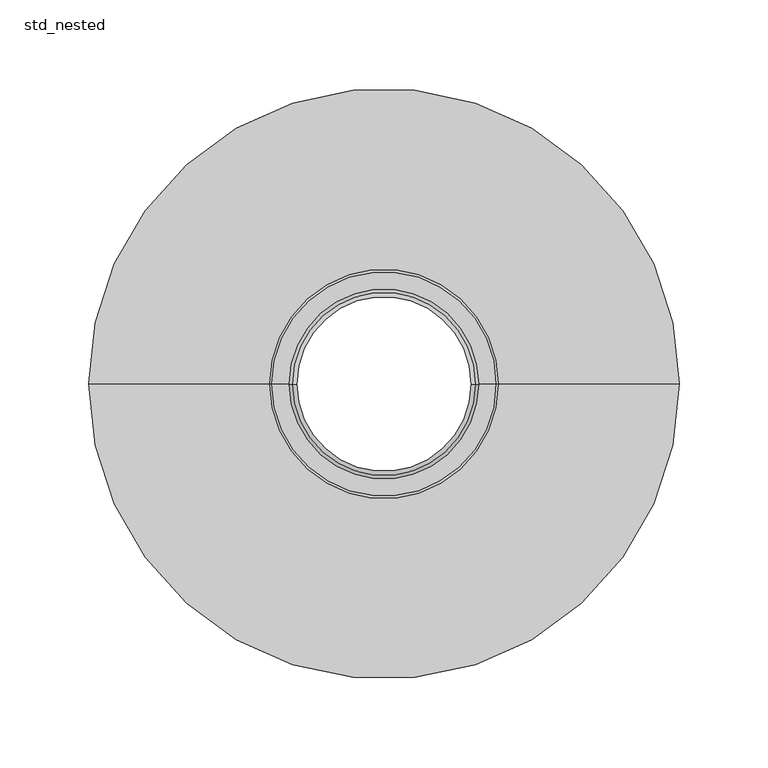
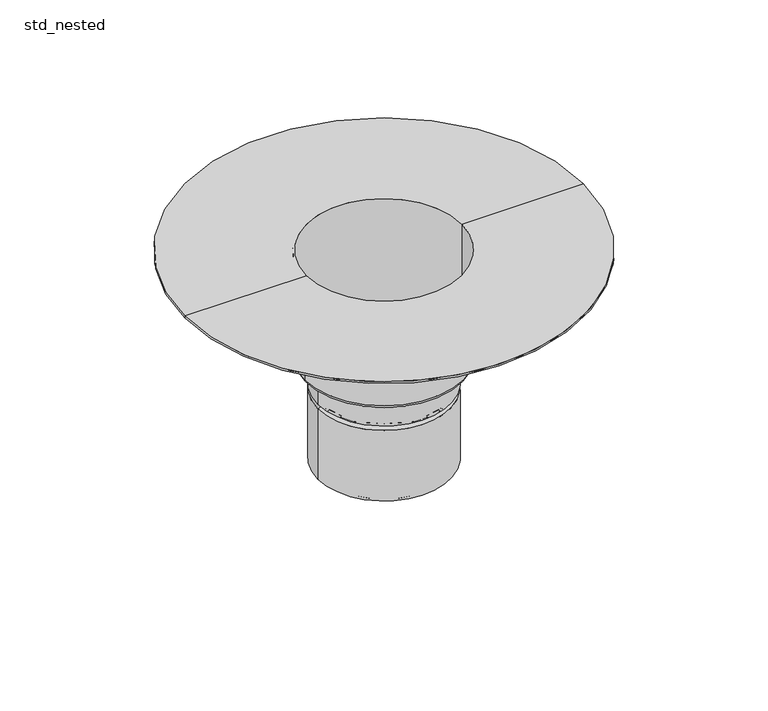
"""IFC4 building model written with IfcOpenShell, lengths in millimetres: sanitary terminal geometry, ZZZ_do not use_PF_ST_UN_Sealing recovery plate_ACO : std_nested."""

from ifc_helpers import new_model, si_unit, point, frame, origin, place, context, project, spatial, polyline, circle_curve, ellipse_curve, trimmed, source, transform, mapped, element, save
from ifc_brep_helpers import plane_surface, cylinder_surface, revolved_surface, advanced_brep


def std_nested_b038d29c(model_context):
    return source(origin(), model_context, "Body", "AdvancedBrep", [
        advanced_brep(
        [(166.0, 0.0, -1.5), (-166.0, 0.0, -1.5), (-166.0, 0.0, 0.0), (166.0, 0.0, 0.0), (-64.5, 0.0, 0.0), (64.5, 0.0, 0.0), (-64.5, 0.0, -91.0), (64.5, 0.0, -91.0), (63.0, 0.0, -92.5), (-63.0, 0.0, -92.5), (-53.5, 0.0, -92.5), (53.5, 0.0, -92.5), (-53.5, 0.0, -115.3377223), (53.5, 0.0, -115.3377223), (-53.5, 0.0, -121.6622777), (53.5, 0.0, -121.6622777), (-53.5, 0.0, -181.7181117), (53.5, 0.0, -181.7181117), (-49.1396353, 0.0, -184.7712719), (49.1396353, 0.0, -184.7712719), (-50.2166579, 0.0, -185.8482945), (50.2166579, 0.0, -185.8482945), (-55.0, 0.0, -182.4989623), (55.0, 0.0, -182.4989623), (-55.0, 0.0, -120.5), (55.0, 0.0, -120.5), (-55.0, 0.0, -116.5), (55.0, 0.0, -116.5), (-55.0, 0.0, -94.0), (55.0, 0.0, -94.0), (-63.0, 0.0, -94.0), (63.0, 0.0, -94.0), (66.0, 0.0, -91.0), (-66.0, 0.0, -91.0), (-66.0, 0.0, -1.5), (66.0, 0.0, -1.5)],
        [
            (0, 1, circle_curve(frame((0.0, 0.0, -1.5), z_axis=(0.0, 0.0, 1.0), x_axis=(-1.0, 0.0, 0.0)), 166.0)),
            (1, 2),
            (2, 3, circle_curve(frame((0.0, 0.0, 0.0), z_axis=(0.0, 0.0, -1.0), x_axis=(-1.0, 0.0, 0.0)), 166.0)),
            (3, 0),
            (1, 0, circle_curve(frame((0.0, 0.0, -1.5), z_axis=(0.0, 0.0, 1.0), x_axis=(-1.0, 0.0, 0.0)), 166.0)),
            (3, 2, circle_curve(frame((0.0, 0.0, 0.0), z_axis=(0.0, 0.0, -1.0), x_axis=(-1.0, 0.0, 0.0)), 166.0)),
            (2, 4),
            (4, 5, circle_curve(frame((0.0, 0.0, 0.0), z_axis=(0.0, 0.0, -1.0), x_axis=(-1.0, 0.0, 0.0)), 64.5)),
            (5, 3),
            (5, 4, circle_curve(frame((0.0, 0.0, 0.0), z_axis=(0.0, 0.0, -1.0), x_axis=(-1.0, 0.0, 0.0)), 64.5)),
            (4, 6),
            (6, 7, circle_curve(frame((0.0, 0.0, -91.0), z_axis=(0.0, 0.0, -1.0), x_axis=(-1.0, 0.0, 0.0)), 64.5)),
            (7, 5),
            (7, 6, circle_curve(frame((0.0, 0.0, -91.0), z_axis=(0.0, 0.0, -1.0), x_axis=(-1.0, 0.0, 0.0)), 64.5)),
            (8, 9, circle_curve(frame((0.0, 0.0, -92.5), z_axis=(0.0, 0.0, 1.0), x_axis=(-1.0, 0.0, 0.0)), 63.0)),
            (9, 10),
            (10, 11, circle_curve(frame((0.0, 0.0, -92.5), z_axis=(0.0, 0.0, -1.0), x_axis=(-1.0, 0.0, 0.0)), 53.5)),
            (11, 8),
            (9, 8, circle_curve(frame((0.0, 0.0, -92.5), z_axis=(0.0, 0.0, 1.0), x_axis=(-1.0, 0.0, 0.0)), 63.0)),
            (11, 10, circle_curve(frame((0.0, 0.0, -92.5), z_axis=(0.0, 0.0, -1.0), x_axis=(-1.0, 0.0, 0.0)), 53.5)),
            (10, 12),
            (12, 13, circle_curve(frame((0.0, 0.0, -115.3377223), z_axis=(0.0, 0.0, -1.0), x_axis=(-1.0, 0.0, 0.0)), 53.5)),
            (13, 11),
            (13, 12, circle_curve(frame((0.0, 0.0, -115.3377223), z_axis=(0.0, 0.0, -1.0), x_axis=(-1.0, 0.0, 0.0)), 53.5)),
            (12, 14, circle_curve(frame((-55.0, 0.0, -118.5), z_axis=(0.0, 1.0, 0.0), x_axis=(1.0, 0.0, 0.0)), 3.5)),
            (14, 15, circle_curve(frame((0.0, 0.0, -121.6622777), z_axis=(0.0, 0.0, -1.0), x_axis=(-1.0, 0.0, 0.0)), 53.5)),
            (15, 13, circle_curve(frame((55.0, 0.0, -118.5), z_axis=(0.0, 1.0, 0.0), x_axis=(-1.0, 0.0, 0.0)), 3.5)),
            (15, 14, circle_curve(frame((0.0, 0.0, -121.6622777), z_axis=(0.0, 0.0, -1.0), x_axis=(-1.0, 0.0, 0.0)), 53.5)),
            (14, 16),
            (16, 17, circle_curve(frame((0.0, 0.0, -181.7181117), z_axis=(0.0, 0.0, -1.0), x_axis=(-1.0, 0.0, 0.0)), 53.5)),
            (17, 15),
            (17, 16, circle_curve(frame((0.0, 0.0, -181.7181117), z_axis=(0.0, 0.0, -1.0), x_axis=(-1.0, 0.0, 0.0)), 53.5)),
            (16, 18),
            (18, 19, circle_curve(frame((0.0, 0.0, -184.7712719), z_axis=(0.0, 0.0, -1.0), x_axis=(-1.0, 0.0, 0.0)), 49.1396353)),
            (19, 17),
            (19, 18, circle_curve(frame((0.0, 0.0, -184.7712719), z_axis=(0.0, 0.0, -1.0), x_axis=(-1.0, 0.0, 0.0)), 49.1396353)),
            (18, 20),
            (20, 21, circle_curve(frame((0.0, 0.0, -185.8482945), z_axis=(0.0, 0.0, -1.0), x_axis=(-1.0, 0.0, 0.0)), 50.2166579)),
            (21, 19),
            (21, 20, circle_curve(frame((0.0, 0.0, -185.8482945), z_axis=(0.0, 0.0, -1.0), x_axis=(-1.0, 0.0, 0.0)), 50.2166579)),
            (20, 22),
            (22, 23, circle_curve(frame((0.0, 0.0, -182.4989623), z_axis=(0.0, 0.0, -1.0), x_axis=(-1.0, 0.0, 0.0)), 55.0)),
            (23, 21),
            (23, 22, circle_curve(frame((0.0, 0.0, -182.4989623), z_axis=(0.0, 0.0, -1.0), x_axis=(-1.0, 0.0, 0.0)), 55.0)),
            (22, 24),
            (24, 25, circle_curve(frame((0.0, 0.0, -120.5), z_axis=(0.0, 0.0, -1.0), x_axis=(-1.0, 0.0, 0.0)), 55.0)),
            (25, 23),
            (25, 24, circle_curve(frame((0.0, 0.0, -120.5), z_axis=(0.0, 0.0, -1.0), x_axis=(-1.0, 0.0, 0.0)), 55.0)),
            (24, 26, circle_curve(frame((-55.0, 0.0, -118.5), z_axis=(0.0, -1.0, 0.0), x_axis=(1.0, 0.0, 0.0)), 2.0)),
            (26, 27, circle_curve(frame((0.0, 0.0, -116.5), z_axis=(0.0, 0.0, -1.0), x_axis=(-1.0, 0.0, 0.0)), 55.0)),
            (27, 25, circle_curve(frame((55.0, 0.0, -118.5), z_axis=(0.0, -1.0, 0.0), x_axis=(-1.0, 0.0, 0.0)), 2.0)),
            (27, 26, circle_curve(frame((0.0, 0.0, -116.5), z_axis=(0.0, 0.0, -1.0), x_axis=(-1.0, 0.0, 0.0)), 55.0)),
            (26, 28),
            (28, 29, circle_curve(frame((0.0, 0.0, -94.0), z_axis=(0.0, 0.0, -1.0), x_axis=(-1.0, 0.0, 0.0)), 55.0)),
            (29, 27),
            (29, 28, circle_curve(frame((0.0, 0.0, -94.0), z_axis=(0.0, 0.0, -1.0), x_axis=(-1.0, 0.0, 0.0)), 55.0)),
            (28, 30),
            (30, 31, circle_curve(frame((0.0, 0.0, -94.0), z_axis=(0.0, 0.0, -1.0), x_axis=(-1.0, 0.0, 0.0)), 63.0)),
            (31, 29),
            (31, 30, circle_curve(frame((0.0, 0.0, -94.0), z_axis=(0.0, 0.0, -1.0), x_axis=(-1.0, 0.0, 0.0)), 63.0)),
            (32, 33, circle_curve(frame((0.0, 0.0, -91.0), z_axis=(0.0, 0.0, 1.0), x_axis=(-1.0, 0.0, 0.0)), 66.0)),
            (33, 34),
            (34, 35, circle_curve(frame((0.0, 0.0, -1.5), z_axis=(0.0, 0.0, -1.0), x_axis=(-1.0, 0.0, 0.0)), 66.0)),
            (35, 32),
            (33, 32, circle_curve(frame((0.0, 0.0, -91.0), z_axis=(0.0, 0.0, 1.0), x_axis=(-1.0, 0.0, 0.0)), 66.0)),
            (35, 34, circle_curve(frame((0.0, 0.0, -1.5), z_axis=(0.0, 0.0, -1.0), x_axis=(-1.0, 0.0, 0.0)), 66.0)),
            (34, 1),
            (0, 35),
            (30, 33, circle_curve(frame((-63.0, 0.0, -91.0), z_axis=(0.0, 1.0, 0.0), x_axis=(1.0, 0.0, 0.0)), 3.0)),
            (32, 31, circle_curve(frame((63.0, 0.0, -91.0), z_axis=(0.0, 1.0, 0.0), x_axis=(-1.0, 0.0, 0.0)), 3.0)),
            (6, 9, circle_curve(frame((-63.0, 0.0, -91.0), z_axis=(0.0, -1.0, 0.0), x_axis=(1.0, 0.0, 0.0)), 1.5)),
            (8, 7, circle_curve(frame((63.0, 0.0, -91.0), z_axis=(0.0, -1.0, 0.0), x_axis=(-1.0, 0.0, 0.0)), 1.5)),
        ],
        [
            cylinder_surface(frame((0.0, 0.0, -186.0), z_axis=(0.0, 0.0, -1.0), x_axis=(-1.0, 0.0, 0.0)), 166.0),
            plane_surface(frame((0.0, 0.0, 0.0), z_axis=(0.0, 0.0, 1.0), x_axis=(-1.0, 0.0, 0.0))),
            revolved_surface(polyline([(-64.5, 0.0, -91.0), (-64.5, 0.0, 0.0)]), (0.0, 0.0, -186.0), (0.0, 0.0, -1.0)),
            plane_surface(frame((0.0, 0.0, -92.5), z_axis=(0.0, 0.0, 1.0), x_axis=(-1.0, 0.0, 0.0))),
            revolved_surface(polyline([(-53.5, 0.0, -115.3377223), (-53.5, 0.0, -92.5)]), (0.0, 0.0, -186.0), (0.0, 0.0, -1.0)),
            revolved_surface(trimmed(ellipse_curve(frame((-55.0, 0.0, -118.5), z_axis=(0.0, -1.0, 0.0), x_axis=(1.0, 0.0, 0.0)), 3.5, 3.5), [point((-53.5, 0.0, -121.6622777))], [point((-53.5, 0.0, -115.3377223))], True, "CARTESIAN"), (0.0, 0.0, -186.0), (0.0, 0.0, -1.0)),
            revolved_surface(polyline([(-53.5, 0.0, -181.7181117), (-53.5, 0.0, -121.6622777)]), (0.0, 0.0, -186.0), (0.0, 0.0, -1.0)),
            revolved_surface(polyline([(-49.1396353, 0.0, -184.7712719), (-53.5, 0.0, -181.7181117)]), (0.0, 0.0, -186.0), (0.0, 0.0, -1.0)),
            revolved_surface(polyline([(-50.2166579, 0.0, -185.8482945), (-49.1396353, 0.0, -184.7712719)]), (0.0, 0.0, -186.0), (0.0, 0.0, -1.0)),
            revolved_surface(polyline([(-55.0, 0.0, -182.4989623), (-50.2166579, 0.0, -185.8482945)]), (0.0, 0.0, -186.0), (0.0, 0.0, -1.0)),
            cylinder_surface(frame((0.0, 0.0, -186.0), z_axis=(0.0, 0.0, -1.0), x_axis=(-1.0, 0.0, 0.0)), 55.0),
            revolved_surface(trimmed(ellipse_curve(frame((-55.0, 0.0, -118.5), z_axis=(0.0, 1.0, 0.0), x_axis=(1.0, 0.0, 0.0)), 2.0, 2.0), [point((-55.0, 0.0, -116.5))], [point((-55.0, 0.0, -120.5))], True, "CARTESIAN"), (0.0, 0.0, -186.0), (0.0, 0.0, -1.0)),
            plane_surface(frame((0.0, 0.0, -94.0), z_axis=(0.0, 0.0, -1.0), x_axis=(-1.0, 0.0, 0.0))),
            cylinder_surface(frame((0.0, 0.0, -186.0), z_axis=(0.0, 0.0, -1.0), x_axis=(-1.0, 0.0, 0.0)), 66.0),
            plane_surface(frame((0.0, 0.0, -1.5), z_axis=(0.0, 0.0, -1.0), x_axis=(-1.0, 0.0, 0.0))),
            revolved_surface(trimmed(ellipse_curve(frame((-63.0, 0.0, -91.0), z_axis=(0.0, -1.0, 0.0), x_axis=(1.0, 0.0, 0.0)), 3.0, 3.0), [point((-66.0, 0.0, -91.0))], [point((-63.0, 0.0, -94.0))], True, "CARTESIAN"), (0.0, 0.0, -186.0), (0.0, 0.0, -1.0)),
            revolved_surface(trimmed(ellipse_curve(frame((-63.0, 0.0, -91.0), z_axis=(0.0, 1.0, 0.0), x_axis=(1.0, 0.0, 0.0)), 1.5, 1.5), [point((-63.0, 0.0, -92.5))], [point((-64.5, 0.0, -91.0))], True, "CARTESIAN"), (0.0, 0.0, -186.0), (0.0, 0.0, -1.0)),
        ],
        [
            (0, [[1, 2, 3, 4]]),
            (0, [[5, -4, 6, -2]]),
            (1, [[-3, 7, 8, 9]]),
            (1, [[-6, -9, 10, -7]]),
            (2, [[-8, 11, 12, 13]]),
            (2, [[-10, -13, 14, -11]]),
            (3, [[15, 16, 17, 18]]),
            (3, [[19, -18, 20, -16]]),
            (4, [[-17, 21, 22, 23]]),
            (4, [[-20, -23, 24, -21]]),
            (5, [[-22, 25, 26, 27]]),
            (5, [[-24, -27, 28, -25]]),
            (6, [[-26, 29, 30, 31]]),
            (6, [[-28, -31, 32, -29]]),
            (7, [[-30, 33, 34, 35]]),
            (7, [[-32, -35, 36, -33]]),
            (8, [[-34, 37, 38, 39]]),
            (8, [[-36, -39, 40, -37]]),
            (9, [[-38, 41, 42, 43]]),
            (9, [[-40, -43, 44, -41]]),
            (10, [[-42, 45, 46, 47]]),
            (10, [[-44, -47, 48, -45]]),
            (11, [[-46, 49, 50, 51]]),
            (11, [[-48, -51, 52, -49]]),
            (10, [[-50, 53, 54, 55]]),
            (10, [[-52, -55, 56, -53]]),
            (12, [[-54, 57, 58, 59]]),
            (12, [[-56, -59, 60, -57]]),
            (13, [[61, 62, 63, 64]]),
            (13, [[65, -64, 66, -62]]),
            (14, [[-63, 67, -1, 68]]),
            (14, [[-66, -68, -5, -67]]),
            (15, [[-58, 69, -61, 70]]),
            (15, [[-60, -70, -65, -69]]),
            (16, [[-12, 71, -15, 72]]),
            (16, [[-14, -72, -19, -71]]),
        ],
    ),
    ])


if __name__ == "__main__":
    model = new_model("IFC4")
    model_context = context("Model", 3, world=origin())
    ifc_project = project(units=[si_unit("LENGTHUNIT", "METRE", prefix="MILLI")], contexts=[model_context])
    site = spatial("IfcSite", under=ifc_project)
    building = spatial("IfcBuilding", under=site)
    placement = place(None, origin())
    std_nested_shape = std_nested_b038d29c(model_context)
    element("IfcSanitaryTerminal", 1, ObjectType="ZZZ_do not use_PF_ST_UN_Sealing recovery plate_ACO : std_nested", at=placement, inside=building, context=model_context, shape_type="MappedRepresentation", body=[
        mapped(std_nested_shape, transform((0.0, 0.0, 0.0), x_axis=(1.0, 0.0, 0.0), y_axis=(0.0, 1.0, 0.0), z_axis=(0.0, 0.0, 1.0))),
    ])
    save(model, "model.ifc")
